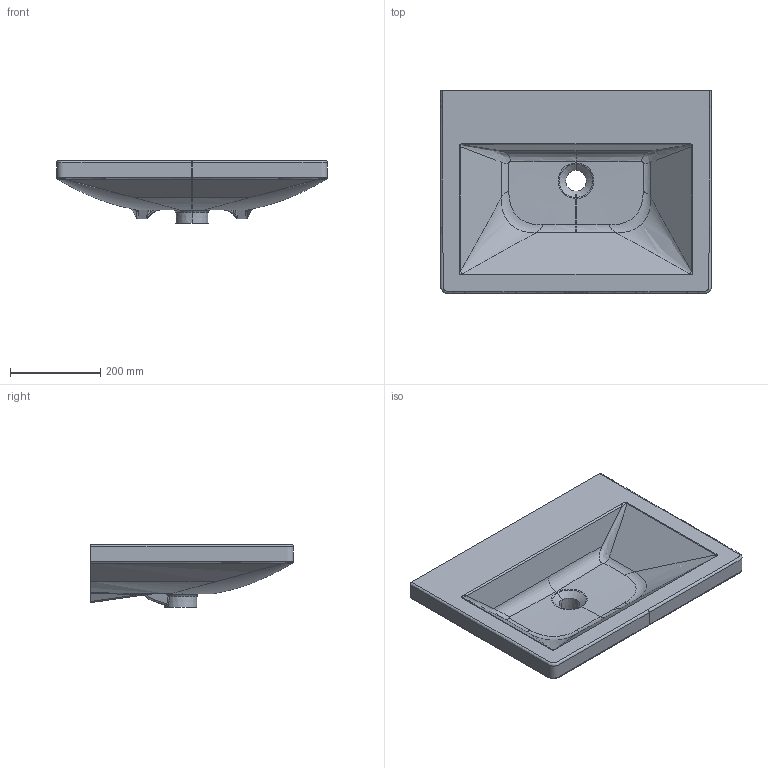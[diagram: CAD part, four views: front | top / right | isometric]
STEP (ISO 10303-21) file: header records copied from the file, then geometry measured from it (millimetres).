
FILE_DESCRIPTION (( 'STEP AP203' ), '1' );
FILE_NAME ('THI60_SOSP.STEP', '2017-12-13T11:22:43', ( '' ), ( '' ), 'SwSTEP 2.0', 'SolidWorks 2018', '' );
FILE_SCHEMA (( 'CONFIG_CONTROL_DESIGN' ));
Length unit declared in the file: millimetre
Products named in the file (1): THI60_SOSP
Bounding box: 600 x 450 x 139.62 mm (x, y, z)
Volume: 12235389.2 mm3; surface area: 818041.9 mm2
Topology: 1 solids, 2 shells, 267 faces, 652 edges, 386 vertices
Faces by surface type: bspline 151, cylinder 60, plane 34, sphere 10, cone 8, torus 4
Full cylindrical faces by diameter (mm): 35 x1
Entity records: 70374 total; most frequent: CARTESIAN_POINT 65418, ORIENTED_EDGE 1292, EDGE_CURVE 646, DIRECTION 605, VERTEX_POINT 385, B_SPLINE_CURVE_WITH_KNOTS 332, EDGE_LOOP 275, FACE_OUTER_BOUND 268
